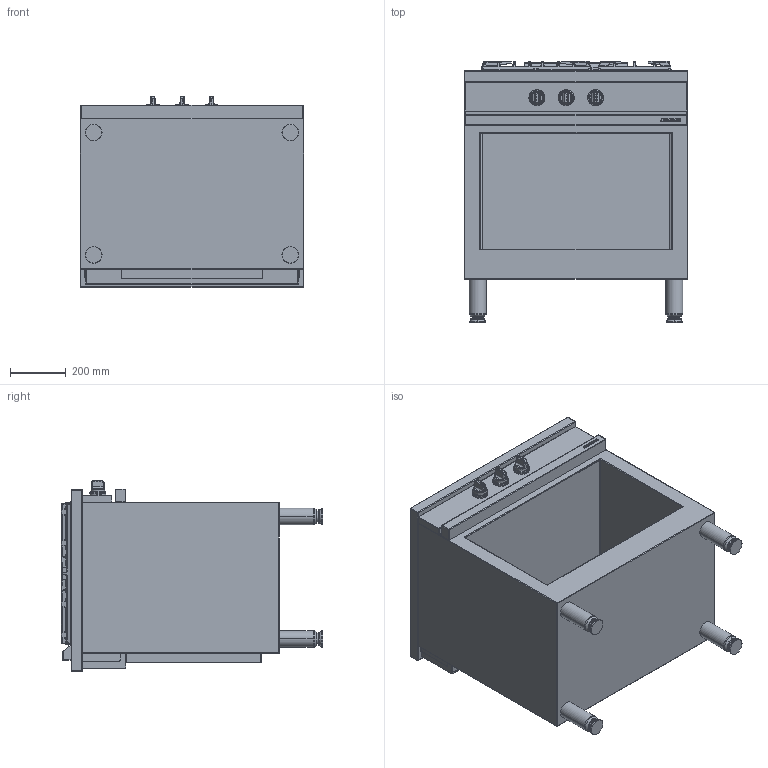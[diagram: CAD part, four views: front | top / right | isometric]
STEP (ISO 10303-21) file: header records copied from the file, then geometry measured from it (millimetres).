
FILE_DESCRIPTION((''),'2;1');
FILE_NAME('CMG830_EXPORT_STEP_ASM','2017-11-22T',('r.avril'),(''),'PRO/ENGINEER BY PARAMETRIC TECHNOLOGY CORPORATION, 2014200','PRO/ENGINEER BY PARAMETRIC TECHNOLOGY CORPORATION, 2014200','');
FILE_SCHEMA(('AP203_CONFIGURATION_CONTROLLED_3D_DESIGN_OF_MECHANICAL_PARTS_AND_ASSEMBLIES_MIM_LF { 1 0 10303 403 2 1 2 }'));
Products named in the file (13): MODULES_AMB_800_EXPORT_STEP; TABLE_800_CLASSIQUE_3F; 5KW; 1_5KW; 3KW; 6537025; 65149005; 90000488_ASM; 6537024; 90000487_ASM; TABLE_800_CLASSIQUE_3F_ASM; MANETTE_AMB_EXPORT_STEP; CMG830_EXPORT_STEP_ASM
Assembly tree (22 placements, depth 4):
  CMG830_EXPORT_STEP_ASM
    MODULES_AMB_800_EXPORT_STEP
    TABLE_800_CLASSIQUE_3F_ASM
      TABLE_800_CLASSIQUE_3F
      5KW
      1_5KW
      3KW
      90000488_ASM  x2
        6537025
        65149005
      90000487_ASM
        6537024
        65149005  x4
    MANETTE_AMB_EXPORT_STEP  x3
Bounding box: 800 x 935 x 682.5 mm (x, y, z)
Volume: 104312838 mm3; surface area: 6870862.4 mm2
Topology: 32 solids, 50 shells, 2730 faces, 7635 edges, 5349 vertices
Faces by surface type: cylinder 810, bspline 776, plane 688, cone 224, torus 112, sphere 100, extrusion 20
Entity records: 98839 total; most frequent: CARTESIAN_POINT 36632, ORIENTED_EDGE 9050, DIRECTION 7897, EDGE_CURVE 4750, PRESENTATION_STYLE_ASSIGNMENT 4286, STYLED_ITEM 4286, CURVE_STYLE 4089, VERTEX_POINT 2950
